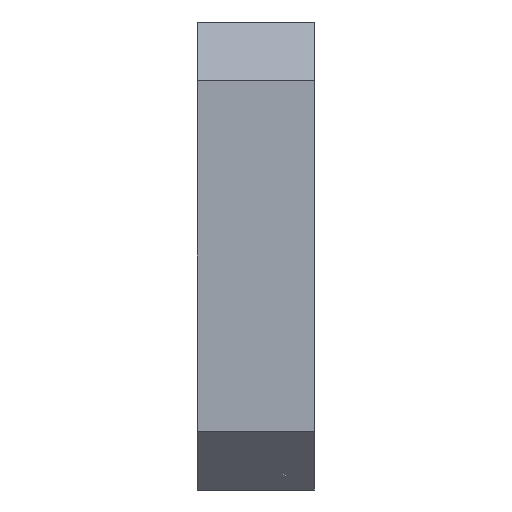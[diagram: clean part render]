
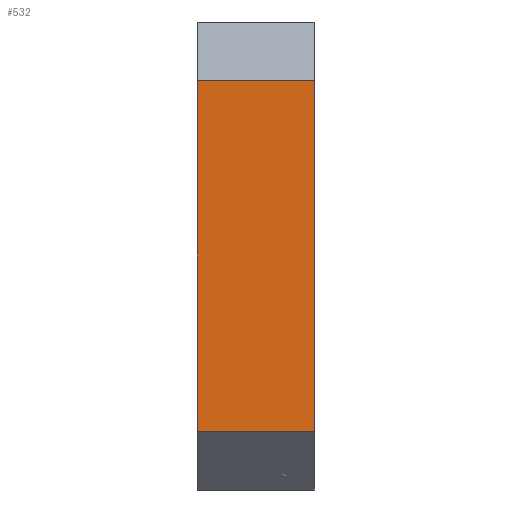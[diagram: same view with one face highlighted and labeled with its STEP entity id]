
A CAD part, left-side view. The second image highlights one B-rep face of the part: STEP entity #532.
In plain terms, the highlighted planar face has unit normal (-1, 0, 0).
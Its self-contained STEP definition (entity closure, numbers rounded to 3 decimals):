
#8 = PLANE ( 'NONE',  #681 ) ;
#10 = VERTEX_POINT ( 'NONE', #1024 ) ;
#48 = EDGE_LOOP ( 'NONE', ( #368, #98, #1124, #1102 ) ) ;
#98 = ORIENTED_EDGE ( 'NONE', *, *, #130, .T. ) ;
#117 = DIRECTION ( 'NONE',  ( 0., 0., 1. ) ) ;
#130 = EDGE_CURVE ( 'NONE', #833, #10, #1267, .T. ) ;
#136 = VERTEX_POINT ( 'NONE', #1239 ) ;
#260 = DIRECTION ( 'NONE',  ( 0., 0., -1. ) ) ;
#290 = CARTESIAN_POINT ( 'NONE',  ( -108., -5., 5. ) ) ;
#357 = CARTESIAN_POINT ( 'NONE',  ( -108., -5., 10. ) ) ;
#368 = ORIENTED_EDGE ( 'NONE', *, *, #1010, .T. ) ;
#442 = VECTOR ( 'NONE', #1000, 1000. ) ;
#503 = LINE ( 'NONE', #1092, #442 ) ;
#522 = VECTOR ( 'NONE', #673, 1000. ) ;
#532 = ADVANCED_FACE ( 'NONE', ( #896 ), #8, .T. ) ;
#594 = EDGE_CURVE ( 'NONE', #784, #136, #609, .T. ) ;
#609 = LINE ( 'NONE', #994, #867 ) ;
#658 = CARTESIAN_POINT ( 'NONE',  ( -108., 5., -25. ) ) ;
#673 = DIRECTION ( 'NONE',  ( 0., -1., 0. ) ) ;
#681 = AXIS2_PLACEMENT_3D ( 'NONE', #802, #1001, #117 ) ;
#698 = LINE ( 'NONE', #357, #961 ) ;
#784 = VERTEX_POINT ( 'NONE', #290 ) ;
#802 = CARTESIAN_POINT ( 'NONE',  ( -108., 5., 10. ) ) ;
#817 = DIRECTION ( 'NONE',  ( 0., 1., 0. ) ) ;
#833 = VERTEX_POINT ( 'NONE', #1070 ) ;
#867 = VECTOR ( 'NONE', #817, 1000. ) ;
#896 = FACE_OUTER_BOUND ( 'NONE', #48, .T. ) ;
#961 = VECTOR ( 'NONE', #260, 1000. ) ;
#994 = CARTESIAN_POINT ( 'NONE',  ( -108., 5., 5. ) ) ;
#1000 = DIRECTION ( 'NONE',  ( 0., 0., -1. ) ) ;
#1001 = DIRECTION ( 'NONE',  ( -1., 0., 0. ) ) ;
#1010 = EDGE_CURVE ( 'NONE', #136, #833, #503, .T. ) ;
#1024 = CARTESIAN_POINT ( 'NONE',  ( -108., -5., -25. ) ) ;
#1070 = CARTESIAN_POINT ( 'NONE',  ( -108., 5., -25. ) ) ;
#1092 = CARTESIAN_POINT ( 'NONE',  ( -108., 5., 10. ) ) ;
#1102 = ORIENTED_EDGE ( 'NONE', *, *, #594, .T. ) ;
#1124 = ORIENTED_EDGE ( 'NONE', *, *, #1178, .F. ) ;
#1178 = EDGE_CURVE ( 'NONE', #784, #10, #698, .T. ) ;
#1239 = CARTESIAN_POINT ( 'NONE',  ( -108., 5., 5. ) ) ;
#1267 = LINE ( 'NONE', #658, #522 ) ;
